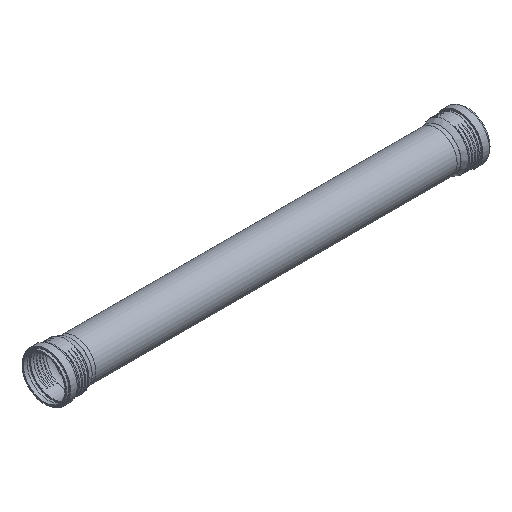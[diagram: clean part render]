
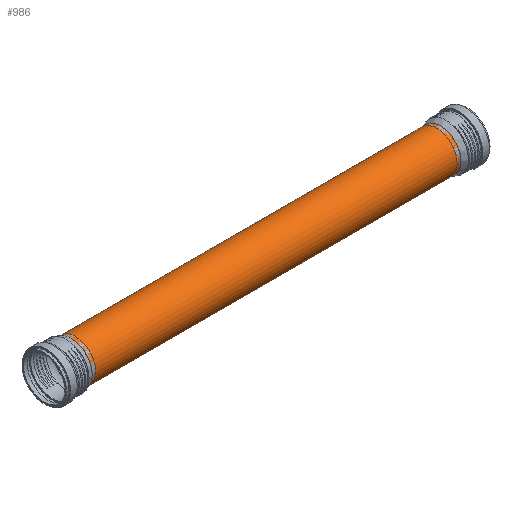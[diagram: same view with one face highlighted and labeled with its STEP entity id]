
A CAD part, isometric view. The second image highlights one B-rep face of the part: STEP entity #986.
In plain terms, the highlighted cylindrical face has radius 55.1 mm (diameter 110.2 mm), a full revolution.
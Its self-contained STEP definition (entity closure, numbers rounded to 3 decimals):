
#138=FACE_BOUND('',#266,.T.);
#202=FACE_OUTER_BOUND('',#265,.T.);
#265=EDGE_LOOP('',(#661));
#266=EDGE_LOOP('',(#662));
#389=CIRCLE('',#1065,55.1);
#390=CIRCLE('',#1067,55.1);
#437=VERTEX_POINT('',#1418);
#438=VERTEX_POINT('',#1421);
#541=EDGE_CURVE('',#437,#437,#389,.T.);
#542=EDGE_CURVE('',#438,#438,#390,.T.);
#661=ORIENTED_EDGE('',*,*,#541,.F.);
#662=ORIENTED_EDGE('',*,*,#542,.F.);
#894=CYLINDRICAL_SURFACE('',#1066,55.1);
#986=ADVANCED_FACE('',(#202,#138),#894,.T.);
#1065=AXIS2_PLACEMENT_3D('',#1419,#1187,#1188);
#1066=AXIS2_PLACEMENT_3D('',#1420,#1189,#1190);
#1067=AXIS2_PLACEMENT_3D('',#1422,#1191,#1192);
#1187=DIRECTION('center_axis',(-1.,0.,0.));
#1188=DIRECTION('ref_axis',(0.,-1.,0.));
#1189=DIRECTION('center_axis',(1.,0.,0.));
#1190=DIRECTION('ref_axis',(0.,-1.,0.));
#1191=DIRECTION('center_axis',(1.,0.,0.));
#1192=DIRECTION('ref_axis',(0.,-1.,0.));
#1418=CARTESIAN_POINT('',(-495.05,55.1,0.));
#1419=CARTESIAN_POINT('Origin',(-495.05,0.,0.));
#1420=CARTESIAN_POINT('Origin',(0.,0.,0.));
#1421=CARTESIAN_POINT('',(495.05,55.1,0.));
#1422=CARTESIAN_POINT('Origin',(495.05,0.,0.));
